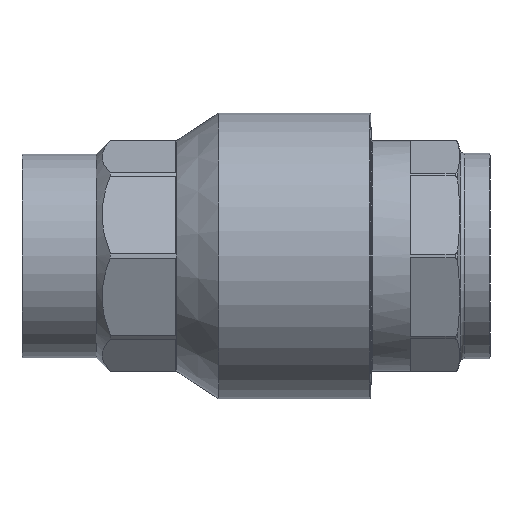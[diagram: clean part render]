
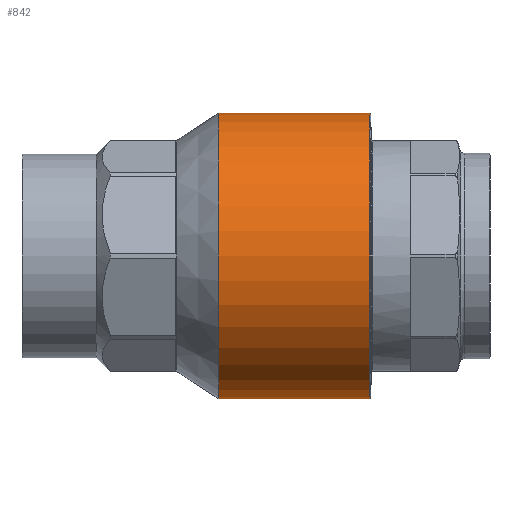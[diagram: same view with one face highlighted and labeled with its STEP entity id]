
A CAD part, front view. The second image highlights one B-rep face of the part: STEP entity #842.
In plain terms, the highlighted cylindrical face has radius 17.145 mm (diameter 34.29 mm), a partial arc.
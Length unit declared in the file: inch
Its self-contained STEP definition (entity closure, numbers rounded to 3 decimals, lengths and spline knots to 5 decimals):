
#7 = CARTESIAN_POINT ( 'NONE',  ( -1.95541, 0., 0.675 ) ) ;
#43 = LINE ( 'NONE', #7, #1764 ) ;
#97 = CARTESIAN_POINT ( 'NONE',  ( -0.175, 0., 0. ) ) ;
#236 = LINE ( 'NONE', #2180, #1854 ) ;
#333 = EDGE_LOOP ( 'NONE', ( #3941, #4480, #2659, #1025 ) ) ;
#475 = DIRECTION ( 'NONE',  ( -1., 0., 0. ) ) ;
#483 = CARTESIAN_POINT ( 'NONE',  ( 0.53612, 0., 0.675 ) ) ;
#654 = AXIS2_PLACEMENT_3D ( 'NONE', #3058, #475, #3762 ) ;
#680 = EDGE_CURVE ( 'NONE', #1316, #3475, #43, .T. ) ;
#699 = CARTESIAN_POINT ( 'NONE',  ( 0.53612, 0., 0. ) ) ;
#842 = ADVANCED_FACE ( 'NONE', ( #1287 ), #4093, .T. ) ;
#1025 = ORIENTED_EDGE ( 'NONE', *, *, #2845, .F. ) ;
#1060 = DIRECTION ( 'NONE',  ( 0., 0., 1. ) ) ;
#1287 = FACE_OUTER_BOUND ( 'NONE', #333, .T. ) ;
#1316 = VERTEX_POINT ( 'NONE', #483 ) ;
#1482 = DIRECTION ( 'NONE',  ( 0., 0., 1. ) ) ;
#1622 = CARTESIAN_POINT ( 'NONE',  ( -0.175, 0., -0.675 ) ) ;
#1764 = VECTOR ( 'NONE', #2570, 39.37008 ) ;
#1854 = VECTOR ( 'NONE', #3646, 39.37008 ) ;
#1990 = AXIS2_PLACEMENT_3D ( 'NONE', #97, #3330, #1482 ) ;
#2017 = AXIS2_PLACEMENT_3D ( 'NONE', #699, #3288, #1060 ) ;
#2180 = CARTESIAN_POINT ( 'NONE',  ( -1.95541, 0., -0.675 ) ) ;
#2364 = VERTEX_POINT ( 'NONE', #2895 ) ;
#2570 = DIRECTION ( 'NONE',  ( -1., 0., 0. ) ) ;
#2659 = ORIENTED_EDGE ( 'NONE', *, *, #680, .T. ) ;
#2845 = EDGE_CURVE ( 'NONE', #3494, #3475, #4581, .T. ) ;
#2895 = CARTESIAN_POINT ( 'NONE',  ( 0.53612, 0., -0.675 ) ) ;
#3058 = CARTESIAN_POINT ( 'NONE',  ( -1.95541, 0., 0. ) ) ;
#3288 = DIRECTION ( 'NONE',  ( -1., 0., 0. ) ) ;
#3330 = DIRECTION ( 'NONE',  ( -1., 0., 0. ) ) ;
#3475 = VERTEX_POINT ( 'NONE', #4156 ) ;
#3494 = VERTEX_POINT ( 'NONE', #1622 ) ;
#3646 = DIRECTION ( 'NONE',  ( -1., 0., 0. ) ) ;
#3762 = DIRECTION ( 'NONE',  ( 0., 0., 1. ) ) ;
#3825 = EDGE_CURVE ( 'NONE', #2364, #3494, #236, .T. ) ;
#3941 = ORIENTED_EDGE ( 'NONE', *, *, #3825, .F. ) ;
#4079 = CIRCLE ( 'NONE', #2017, 0.675 ) ;
#4093 = CYLINDRICAL_SURFACE ( 'NONE', #654, 0.675 ) ;
#4156 = CARTESIAN_POINT ( 'NONE',  ( -0.175, 0., 0.675 ) ) ;
#4302 = EDGE_CURVE ( 'NONE', #2364, #1316, #4079, .T. ) ;
#4480 = ORIENTED_EDGE ( 'NONE', *, *, #4302, .T. ) ;
#4581 = CIRCLE ( 'NONE', #1990, 0.675 ) ;
